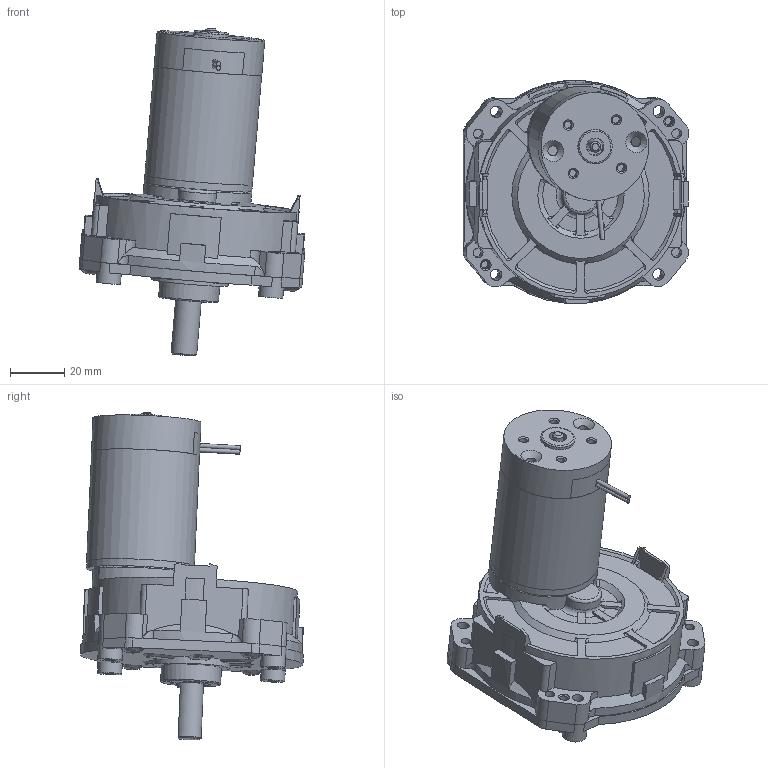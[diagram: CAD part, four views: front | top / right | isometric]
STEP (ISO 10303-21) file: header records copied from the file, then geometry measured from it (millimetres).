
FILE_DESCRIPTION(/* description */ (''),/* implementation_level */ '2;1');
FILE_NAME(/* name */ 'C:\Users\byjeong\Desktop\3D도면\SP43BL.stp',/* time_stamp */ '2015-03-31T15:39:09+09:00',/* author */ ('byjeong'),/* organization */ (''),/* preprocessor_version */ 'ST-DEVELOPER v15.6',/* originating_system */ 'Autodesk Inventor 2015',/* authorisation */ '');
FILE_SCHEMA (('AUTOMOTIVE_DESIGN { 1 0 10303 214 3 1 1 }'));
Length unit declared in the file: millimetre
Products named in the file (10): SP BOX ASSY; DC SP BOX; RM4TYPE_FRONT_HOUSING_; RM4TYPE_PIPE_HOUSING_pi40XL40.8; RM43TYPE_SHAFT; RM4TYPE_BRUSH_BRAKET_LEAD; RM4TYPE_REAR_HOUSING; REAR_HOUSING__ASS'Y_LEAD; RM43ㅁBL; SP BOX ASSY.ipt
Bounding box: 83.45 x 82.46 x 121.26 mm (x, y, z)
Volume: 96583.6 mm3; surface area: 67545.2 mm2
Topology: 10 solids, 11 shells, 645 faces, 1672 edges, 1093 vertices
Faces by surface type: plane 336, cylinder 186, cone 69, bspline 28, torus 24, sphere 2
Full cylindrical faces by diameter (mm): 1.6 x2, 2.7 x4, 2.8 x4, 3 x14, 3.05 x2, 3.4 x2, 3.5 x2, 3.6 x4, 3.7 x2, 3.969 x1, 4 x5, 4.3 x8, 4.5 x4, 5 x2, 6 x1, 6.5 x1, 6.65 x1, 9 x4, 9.5 x2, 9.54 x1, 10.5 x1, 12.5 x1, 12.7 x3, 14 x1, 14.3 x2, 14.5 x2, 16.6 x1, 17.6 x1, 22.2 x1, 28.5 x1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
Entity records: 20759 total; most frequent: CARTESIAN_POINT 5419, DIRECTION 3126, ORIENTED_EDGE 3038, EDGE_CURVE 1518, AXIS2_PLACEMENT_3D 1237, VERTEX_POINT 1063, EDGE_LOOP 878, LINE 652
